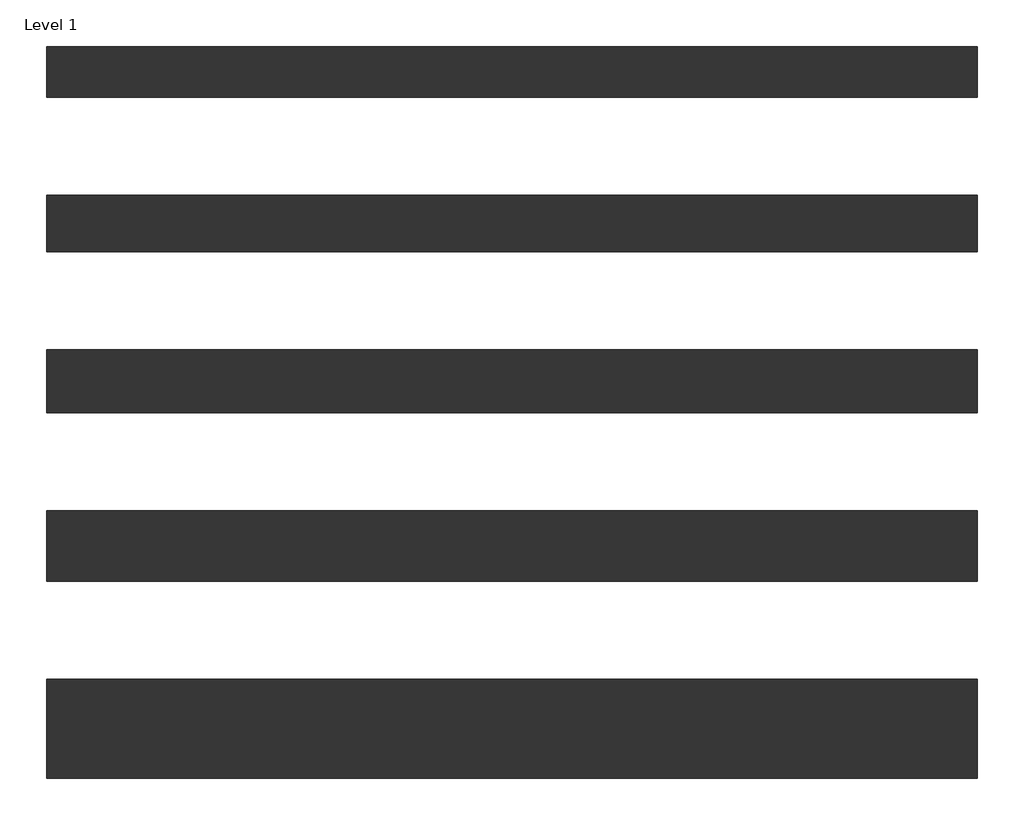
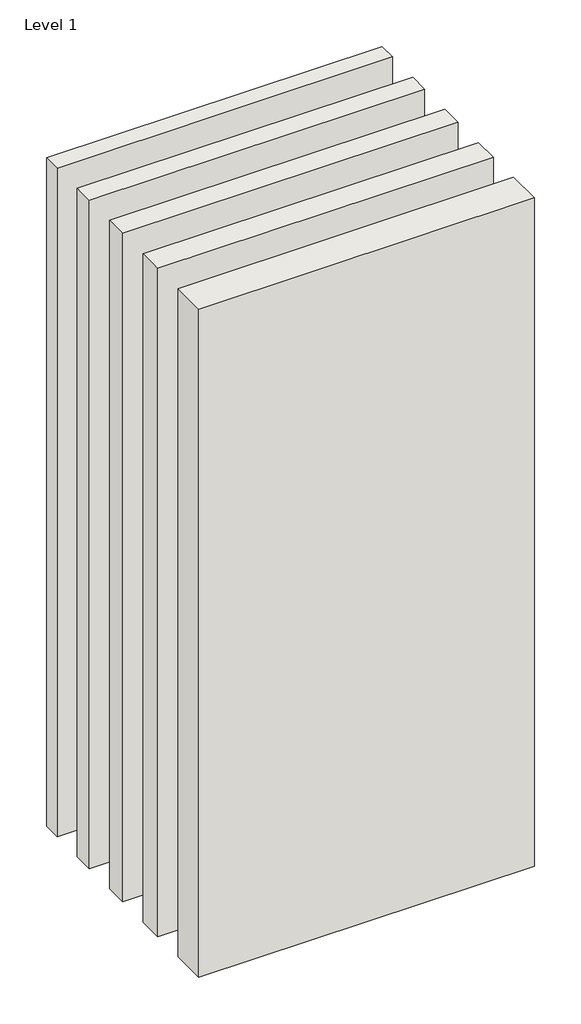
# One storey: 5 walls.
"""IFC4 building model written with IfcOpenShell, lengths in millimetres."""

from ifc_helpers import new_model, si_unit, origin, origin_with_axes, place, context, project, spatial, polyline, outline, extrude, element, save

model = new_model("IFC4")

# Units and contexts
model_context = context("Model", 3, world=origin())
ifc_project = project(units=[si_unit("LENGTHUNIT", "METRE", prefix="MILLI")], contexts=[model_context])

# Site, building, storey
site = spatial("IfcSite", under=ifc_project)
building = spatial("IfcBuilding", under=site)
storey = spatial("IfcBuildingStorey", under=building, Name="Level 1", Elevation=0.0)

# Walls
placement = place(None, origin())
element("IfcWall", 1, ObjectType="Interior-Steel Frame-Single Stud-CSR1078-103mm", at=placement, inside=storey, context=model_context, shape_type="SweptSolid", body=[
    extrude(outline(polyline([(-273.9930905, -421.1317065), (1626.0069095, -421.1317065), (1626.0069095, -524.1317065), (-273.9930905, -524.1317065), (-273.9930905, -421.1317065)])), origin_with_axes(), (0.0, 0.0, 1.0), 4000.0),
])
element("IfcWall", 2, ObjectType="Interior-Steel Frame-Single Stud-CSR1078-116mm", at=placement, inside=storey, context=model_context, shape_type="SweptSolid", body=[
    extrude(outline(polyline([(-273.9930905, -724.1317065), (1626.0069095, -724.1317065), (1626.0069095, -840.1317065), (-273.9930905, -840.1317065), (-273.9930905, -724.1317065)])), origin_with_axes(), (0.0, 0.0, 1.0), 4000.0),
])
element("IfcWall", 3, ObjectType="Interior-Steel Frame-Single Stud-CSR1078-128mm", at=placement, inside=storey, context=model_context, shape_type="SweptSolid", body=[
    extrude(outline(polyline([(-273.9930905, -1040.1317065), (1626.0069095, -1040.1317065), (1626.0069095, -1168.1317065), (-273.9930905, -1168.1317065), (-273.9930905, -1040.1317065)])), origin_with_axes(), (0.0, 0.0, 1.0), 4000.0),
])
element("IfcWall", 4, ObjectType="Interior-Steel Frame-Single Stud-CSR1078-144mm", at=placement, inside=storey, context=model_context, shape_type="SweptSolid", body=[
    extrude(outline(polyline([(-273.9930905, -1368.1317065), (1626.0069095, -1368.1317065), (1626.0069095, -1512.1317065), (-273.9930905, -1512.1317065), (-273.9930905, -1368.1317065)])), origin_with_axes(), (0.0, 0.0, 1.0), 4000.0),
])
element("IfcWall", 5, ObjectType="Interior-Steel Frame-Single Stud-CSR1078-202mm", at=placement, inside=storey, context=model_context, shape_type="SweptSolid", body=[
    extrude(outline(polyline([(-273.9930905, -1712.1317065), (1626.0069095, -1712.1317065), (1626.0069095, -1914.1317065), (-273.9930905, -1914.1317065), (-273.9930905, -1712.1317065)])), origin_with_axes(), (0.0, 0.0, 1.0), 4000.0),
])

save(model, "model.ifc")
